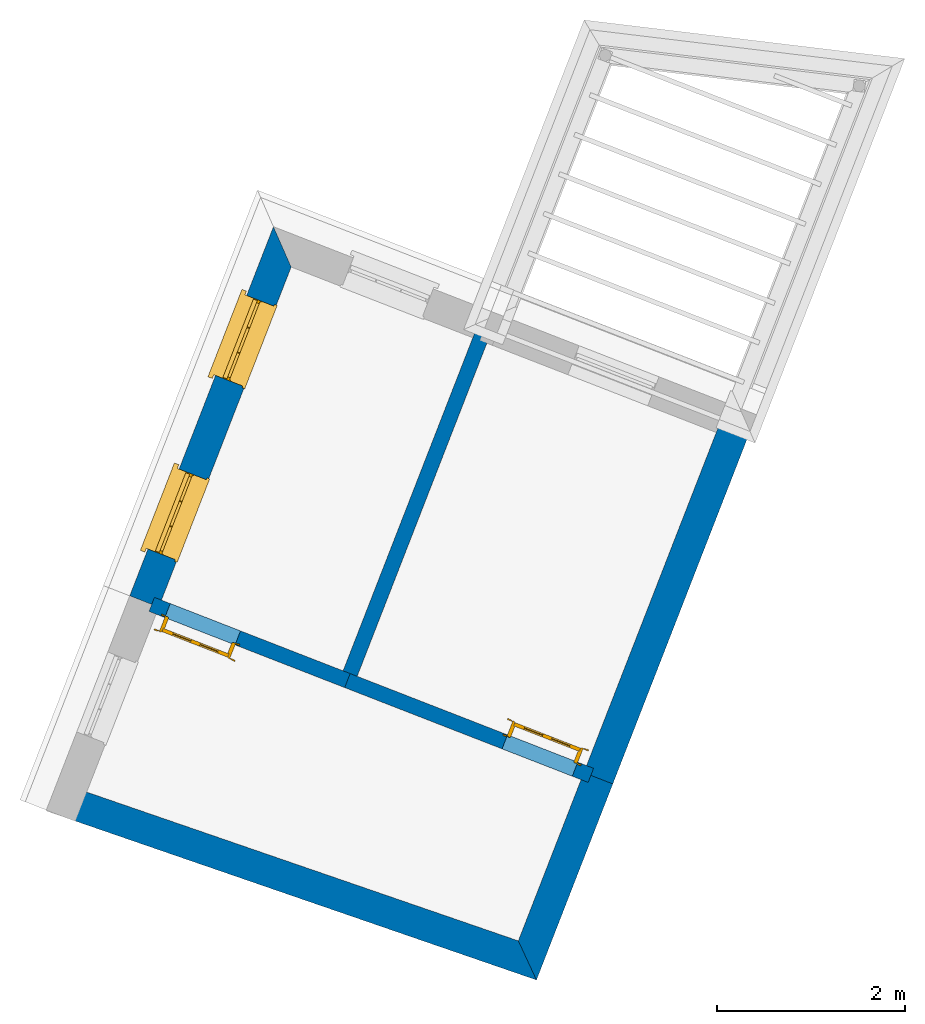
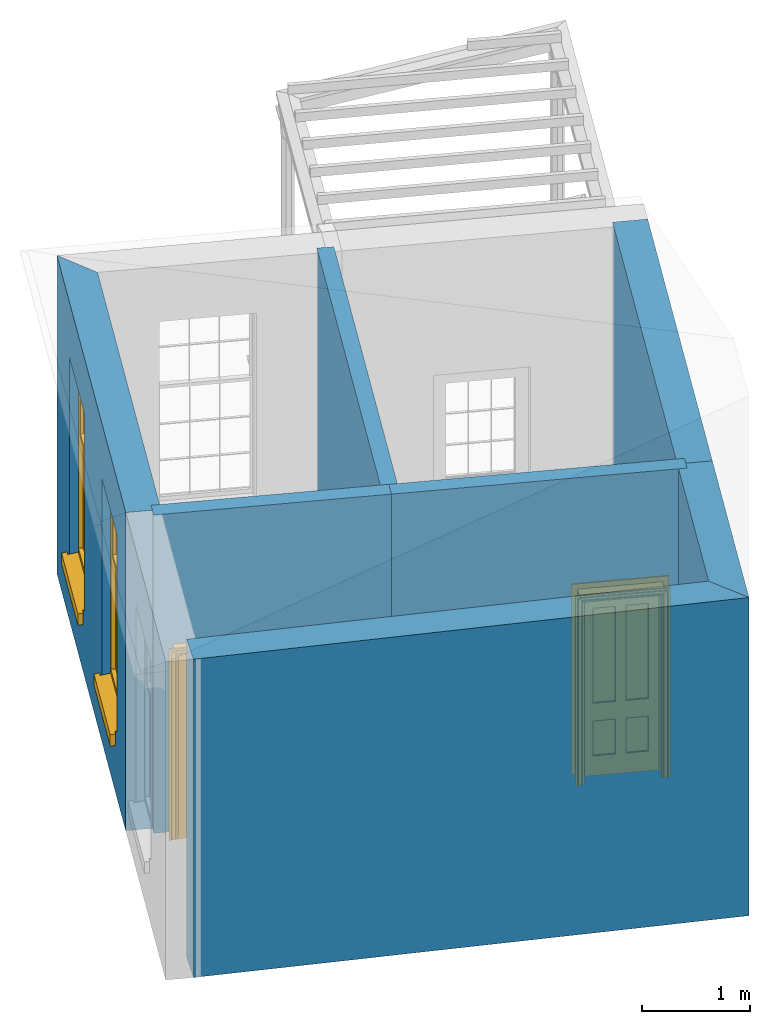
# One storey, part 2 of 4: 7 walls, 2 doors, 2 windows, 4 openings.
"""IFC4 building model written with IfcOpenShell, lengths in metres."""

from ifc_helpers import new_model, si_unit, frame, origin, origin_with_axes, place, context, subcontext, project, spatial, polyline, outline, extrude, faceted_brep, source, transform, mapped, material, layer, layer_set, layer_usage, type_object, type_shapes, element, fill, save


model = new_model("IFC4")

# Units and contexts
model_context = context("Model", 3, world=origin_with_axes())
body_context = subcontext(model_context, "Body", "Model", "MODEL_VIEW")
ifc_project = project(units=[si_unit("PLANEANGLEUNIT", "RADIAN"), si_unit("MASSUNIT", "GRAM", prefix="KILO"), si_unit("FORCEUNIT", "NEWTON", prefix="KILO"), si_unit("LENGTHUNIT", "METRE"), si_unit("AREAUNIT", "SQUARE_METRE"), si_unit("VOLUMEUNIT", "CUBIC_METRE")], contexts=[model_context, model_context])

# Sites, building, storey
site_1_placement = place(None, origin_with_axes())
site_1 = spatial("IfcSite", under=ifc_project, at=site_1_placement, Name="Tamar")
site_2_placement = place(site_1_placement, origin_with_axes())
site_2 = spatial("IfcSite", under=site_1, at=site_2_placement, Name="Site plot-9", CompositionType="ELEMENT")
building_placement = place(None, origin_with_axes())
building = spatial("IfcBuilding", under=site_2, at=building_placement, Name="Building plot-9", CompositionType="ELEMENT")
storey_placement = place(None, frame((0.0, 0.0, 30.1), z_axis=(0.0, 0.0, 1.0), x_axis=(1.0, 0.0, 0.0)))
storey = spatial("IfcBuildingStorey", under=building, at=storey_placement, Name="plot-9 1", CompositionType="ELEMENT", Elevation=30.1)

# Wall, openings, windows
ifc_material_1 = material(Name="Masonry")
ifc_layer_1 = layer(ifc_material_1, 0.33, ventilated=False)
ifc_layer_set_1 = layer_set([ifc_layer_1], Name="exterior_0.08_0.25")
ifc_layer_usage_1 = layer_usage(ifc_layer_set_1, "AXIS2", "POSITIVE", -0.25)
wall_type_1 = type_object("IfcWallType", Name="exterior_0.08_0.25", PredefinedType="SOLIDWALL", material=ifc_layer_set_1)
wall_1_placement = place(storey_placement, frame((225.850272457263, 320.89499479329, 0.0), z_axis=(0.0, 0.0, 1.0), x_axis=(-0.362808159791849, -0.93186385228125, 0.0)))
wall_1 = element("IfcWall", 1, at=wall_1_placement, inside=storey, type_object=wall_type_1, material=ifc_layer_usage_1, Name="exterior", context=body_context, shape_type="SweptSolid", body=[
    extrude(outline(polyline([(0.0799999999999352, 0.079999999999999), (-0.249999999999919, -0.250000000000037), (3.95299551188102, -0.250000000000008), (3.95299551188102, 0.080000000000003), (0.0799999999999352, 0.079999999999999)])), origin_with_axes(), (0.0, 0.0, 1.0), 3.6),
])
opening_1_placement = place(wall_1_placement, frame((0.533248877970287, 0.0, 0.75)))
opening_1 = element("IfcOpeningElement", 2, at=opening_1_placement, cuts=wall_1, Name="My Opening", ObjectType="Opening", context=body_context, shape_type="SweptSolid", body=[
    extrude(outline(polyline([(0.0, -0.269999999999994), (0.909999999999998, -0.270000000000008), (0.909999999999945, 1.09999999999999), (-5.295763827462e-14, 1.1), (0.0, -0.269999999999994)])), origin_with_axes(), (0.0, 0.0, 1.0), 2.23),
])
opening_2_placement = place(wall_1_placement, frame((2.5097466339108, 0.0, 0.75)))
opening_2 = element("IfcOpeningElement", 3, at=opening_2_placement, cuts=wall_1, Name="My Opening", ObjectType="Opening", context=body_context, shape_type="SweptSolid", body=[
    extrude(outline(polyline([(0.0, -0.269999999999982), (0.909999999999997, -0.269999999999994), (0.909999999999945, 1.1), (-5.32907051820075e-14, 1.10000000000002), (0.0, -0.269999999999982)])), origin_with_axes(), (0.0, 0.0, 1.0), 2.23),
])
window_type = type_object("IfcWindowType", Name="sash_big_taller", PartitioningType="DOUBLE_PANEL_HORIZONTAL", PredefinedType="NOTDEFINED")
shared_shape_1 = source(origin(), body_context, "Body", "Brep", [
    faceted_brep([(0.033125, 0.145, 1.385209), (0.01, 0.145, 1.385209), (0.033125, 0.145, 1.786042), (0.876875, 0.145, 1.385209), (0.876875, 0.145, 1.786042), (0.9, 0.145, 1.385209), (0.876875, 0.145, 1.796042), (0.876875, 0.145, 2.196875), (0.9, 0.145, 2.22), (0.033125, 0.145, 2.196875), (0.033125, 0.145, 1.796042), (0.01, 0.145, 2.22), (0.876875, 0.115, 1.786042), (0.876875, 0.115, 1.385209), (0.9, 0.115, 1.347084), (0.033125, 0.115, 2.196875), (0.01, 0.115, 2.22), (0.033125, 0.115, 1.796042), (0.01, 0.115, 1.347084), (0.033125, 0.115, 1.385209), (0.033125, 0.115, 1.786042), (0.876875, 0.115, 2.196875), (0.876875, 0.115, 1.796042), (0.9, 0.115, 2.22), (0.033125, 0.145, 1.347084), (0.01, 0.145, 1.347084), (0.033125, 0.145, 0.94625), (0.876875, 0.145, 1.347084), (0.876875, 0.145, 0.94625), (0.9, 0.145, 1.347084), (0.876875, 0.145, 0.52625), (0.876875, 0.145, 0.125417), (0.9, 0.145, 0.077167), (0.033125, 0.145, 0.125417), (0.033125, 0.145, 0.52625), (0.01, 0.145, 0.077167), (-0.0425, 0.0, 0.01), (-0.0425, -0.05, 0.001667), (0.0, 0.0, 0.01), (0.9525, 0.0, 0.01), (0.91, 0.0, 0.01), (0.9525, -0.05, 0.001667), (-0.02, 0.33, 0.077167), (0.0, 0.33, 0.077167), (-0.02, 0.36, 0.077167), (0.0, 0.19, 0.077167), (0.01, 0.19, 0.077167), (0.91, 0.19, 0.077167), (0.91, 0.33, 0.077167), (0.9, 0.19, 0.077167), (0.93, 0.33, 0.077167), (0.93, 0.36, 0.077167), (0.01, 0.175, 1.385209), (0.9, 0.175, 1.385209), (0.876875, 0.175, 0.125417), (0.876875, 0.175, 0.52625), (0.9, 0.175, 0.077167), (0.876875, 0.175, 0.94625), (0.876875, 0.175, 1.347084), (0.033125, 0.175, 0.125417), (0.01, 0.175, 0.077167), (0.033125, 0.175, 0.52625), (0.033125, 0.175, 1.347084), (0.033125, 0.175, 0.94625), (-0.02, 0.33, 0.052167), (-0.02, 0.36, 0.052167), (0.93, 0.36, 0.052167), (0.93, 0.33, 0.052167), (0.91, 0.33, 0.052167), (0.0, 0.33, 0.052167), (0.91, 0.1, 0.026667), (0.0, 0.1, 0.026667), (-0.0425, -0.05, -0.123333), (0.9525, -0.05, -0.123333), (-0.0425, 0.0, -0.123333), (0.9525, 0.0, -0.123333), (0.01, 0.19, 2.22), (0.9, 0.19, 2.22), (0.0, 0.19, 2.23), (0.91, 0.19, 2.23), (0.01, 0.1, 0.077167), (0.9, 0.1, 0.077167), (0.592292, 0.145, 0.125417), (0.592292, 0.175, 0.125417), (0.317708, 0.175, 0.125417), (0.317708, 0.145, 0.125417), (0.592292, 0.145, 0.53625), (0.317708, 0.145, 0.53625), (0.317708, 0.145, 0.52625), (0.592292, 0.145, 0.52625), (0.592292, 0.175, 0.53625), (0.317708, 0.175, 0.53625), (0.592292, 0.115, 1.796042), (0.592292, 0.145, 1.796042), (0.317708, 0.145, 1.796042), (0.317708, 0.115, 1.796042), (0.317708, 0.115, 1.786042), (0.592292, 0.115, 1.786042), (0.317708, 0.145, 1.786042), (0.592292, 0.145, 1.786042), (0.602292, 0.115, 1.786042), (0.592292, 0.115, 1.385209), (0.602292, 0.115, 1.385209), (0.602292, 0.145, 1.385209), (0.592292, 0.145, 1.385209), (0.602292, 0.145, 1.786042), (0.876875, 0.145, 0.53625), (0.876875, 0.175, 0.53625), (0.602292, 0.175, 0.53625), (0.602292, 0.145, 0.53625), (0.317708, 0.175, 0.52625), (0.307708, 0.175, 0.125417), (0.307708, 0.175, 0.52625), (0.602292, 0.175, 0.52625), (0.602292, 0.175, 0.125417), (0.592292, 0.175, 0.52625), (0.307708, 0.175, 0.53625), (0.033125, 0.175, 0.53625), (0.317708, 0.175, 1.347084), (0.317708, 0.175, 0.94625), (0.307708, 0.175, 0.94625), (0.307708, 0.175, 1.347084), (0.602292, 0.175, 1.347084), (0.602292, 0.175, 0.94625), (0.592292, 0.175, 0.94625), (0.592292, 0.175, 1.347084), (0.307708, 0.145, 0.52625), (0.307708, 0.145, 0.125417), (0.307708, 0.145, 0.53625), (0.033125, 0.145, 0.53625), (0.307708, 0.145, 1.347084), (0.307708, 0.145, 0.94625), (0.592292, 0.145, 1.347084), (0.592292, 0.145, 0.94625), (0.317708, 0.145, 0.94625), (0.317708, 0.145, 1.347084), (0.602292, 0.145, 0.94625), (0.602292, 0.145, 1.347084), (0.602292, 0.145, 0.52625), (0.602292, 0.145, 0.125417), (0.307708, 0.115, 1.796042), (0.307708, 0.115, 1.786042), (0.307708, 0.115, 1.385209), (0.317708, 0.115, 1.385209), (0.317708, 0.115, 2.196875), (0.307708, 0.115, 2.196875), (0.602292, 0.115, 2.196875), (0.592292, 0.115, 2.196875), (0.602292, 0.115, 1.796042), (0.602292, 0.145, 1.796042), (0.307708, 0.145, 1.796042), (0.307708, 0.145, 2.196875), (0.317708, 0.145, 2.196875), (0.592292, 0.145, 2.196875), (0.602292, 0.145, 2.196875), (0.307708, 0.145, 1.786042), (0.317708, 0.145, 1.385209), (0.307708, 0.145, 1.385209), (0.876875, 0.175, 0.93625), (0.033125, 0.175, 0.93625), (0.033125, 0.145, 0.93625), (0.876875, 0.145, 0.93625), (0.91, 0.1, 2.23), (0.9, 0.1, 2.22), (0.01, 0.1, 2.22), (0.0, 0.1, 2.23), (0.91, 0.0, 0.0), (0.0, 0.0, 0.0), (0.91, 0.33, 0.0), (0.0, 0.33, 0.0), (0.317708, 0.145, 0.93625), (0.592292, 0.145, 0.93625), (0.317708, 0.175, 0.93625), (0.307708, 0.175, 0.93625), (0.602292, 0.175, 0.93625), (0.592292, 0.175, 0.93625), (0.307708, 0.145, 0.93625), (0.602292, 0.145, 0.93625)], [[[0, 1, 2]], [[3, 4, 5]], [[6, 7, 8]], [[9, 10, 11]], [[12, 13, 14]], [[15, 16, 17]], [[18, 19, 20]], [[21, 22, 23]], [[24, 25, 26]], [[27, 28, 29]], [[30, 31, 32]], [[33, 34, 35]], [[14, 27, 29]], [[25, 24, 18]], [[36, 37, 38]], [[39, 40, 41]], [[42, 43, 44]], [[45, 46, 43]], [[47, 48, 49]], [[50, 51, 48]], [[1, 0, 52]], [[5, 53, 3]], [[54, 55, 56]], [[57, 58, 53]], [[59, 60, 61]], [[62, 63, 52]], [[48, 43, 46, 49]], [[51, 44, 43, 48]], [[64, 42, 44, 65]], [[65, 44, 51, 66]], [[66, 51, 50, 67]], [[65, 66, 68, 69]], [[60, 56, 49, 46]], [[70, 71, 38, 40]], [[37, 41, 40, 38]], [[37, 72, 73, 41]], [[74, 75, 73, 72]], [[8, 11, 76, 77]], [[76, 78, 79, 77]], [[32, 35, 80, 81]], [[81, 80, 71, 70]], [[82, 83, 84, 85]], [[86, 87, 88, 89]], [[86, 90, 91, 87]], [[92, 93, 94, 95]], [[92, 95, 96, 97]], [[96, 98, 99, 97]], [[100, 97, 101, 102]], [[103, 104, 99, 105]], [[97, 99, 104, 101]], [[102, 103, 105, 100]], [[106, 107, 108, 109]], [[110, 84, 111, 112]], [[113, 114, 83, 115]], [[116, 112, 61, 117]], [[90, 115, 110, 91]], [[118, 119, 120, 121]], [[122, 123, 124, 125]], [[113, 108, 107, 55]], [[126, 112, 111, 127]], [[34, 61, 112, 126]], [[89, 115, 83, 82]], [[88, 110, 115, 89]], [[85, 84, 110, 88]], [[128, 116, 117, 129]], [[130, 121, 120, 131]], [[132, 125, 124, 133]], [[134, 119, 118, 135]], [[136, 123, 122, 137]], [[138, 113, 55, 30]], [[139, 114, 113, 138]], [[138, 30, 106, 109]], [[88, 126, 127, 85]], [[138, 89, 82, 139]], [[137, 132, 133, 136]], [[128, 129, 34, 126]], [[135, 130, 131, 134]], [[140, 17, 20, 141]], [[96, 141, 142, 143]], [[144, 145, 140, 95]], [[146, 147, 92, 148]], [[100, 12, 22, 148]], [[149, 6, 4, 105]], [[94, 150, 151, 152]], [[149, 93, 153, 154]], [[99, 98, 94, 93]], [[155, 2, 10, 150]], [[156, 157, 155, 98]], [[141, 155, 157, 142]], [[20, 2, 155, 141]], [[143, 156, 98, 96]], [[140, 150, 10, 17]], [[145, 151, 150, 140]], [[147, 153, 93, 92]], [[95, 94, 152, 144]], [[22, 6, 149, 148]], [[148, 149, 154, 146]], [[100, 105, 4, 12]], [[109, 86, 89, 138]], [[108, 113, 115, 90]], [[91, 110, 112, 116]], [[87, 128, 126, 88]], [[97, 100, 148, 92]], [[141, 96, 95, 140]], [[98, 155, 150, 94]], [[105, 99, 93, 149]], [[143, 101, 104, 156]], [[135, 118, 125, 132]], [[144, 152, 153, 147]], [[127, 111, 59, 33]], [[15, 9, 151, 145]], [[146, 154, 7, 21]], [[31, 54, 114, 139]], [[36, 74, 72, 37]], [[39, 41, 73, 75]], [[18, 14, 101, 143]], [[23, 16, 144, 147]], [[83, 56, 60, 84]], [[52, 53, 125, 118]], [[53, 52, 156, 104]], [[11, 8, 153, 152]], [[14, 18, 135, 132]], [[2, 1, 11, 10]], [[8, 5, 4, 6]], [[57, 53, 56, 158]], [[60, 52, 63, 159]], [[26, 25, 35, 160]], [[32, 29, 28, 161]], [[14, 23, 22, 12]], [[18, 20, 17, 16]], [[19, 0, 2, 20]], [[17, 10, 9, 15]], [[12, 4, 3, 13]], [[21, 7, 6, 22]], [[27, 58, 57, 28]], [[30, 55, 54, 31]], [[33, 59, 61, 34]], [[26, 63, 62, 24]], [[5, 8, 77, 53]], [[76, 11, 1, 52]], [[46, 45, 78, 76]], [[49, 77, 79, 47]], [[70, 162, 163, 81]], [[71, 80, 164, 165]], [[19, 142, 157, 0]], [[102, 13, 3, 103]], [[121, 130, 24, 62]], [[29, 32, 81, 14]], [[80, 35, 25, 18]], [[60, 46, 76, 52]], [[77, 49, 56, 53]], [[23, 14, 81, 163]], [[16, 164, 80, 18]], [[35, 85, 127]], [[127, 33, 35]], [[139, 82, 32]], [[32, 31, 139]], [[32, 82, 85, 35]], [[102, 101, 14]], [[14, 13, 102]], [[18, 143, 142]], [[142, 19, 18]], [[146, 21, 23]], [[23, 147, 146]], [[16, 15, 145]], [[145, 144, 16]], [[11, 152, 151]], [[151, 9, 11]], [[154, 153, 8]], [[8, 7, 154]], [[23, 163, 164, 16]], [[162, 165, 164, 163]], [[52, 118, 121]], [[121, 62, 52]], [[125, 53, 122]], [[58, 122, 53]], [[27, 137, 122, 58]], [[56, 83, 114]], [[114, 54, 56]], [[111, 84, 60]], [[60, 59, 111]], [[137, 27, 14]], [[14, 132, 137]], [[130, 135, 18]], [[18, 24, 130]], [[157, 156, 52]], [[52, 0, 157]], [[103, 3, 53]], [[53, 104, 103]], [[79, 78, 165, 162]], [[78, 45, 71, 165]], [[162, 70, 47, 79]], [[166, 75, 74, 167]], [[68, 66, 67]], [[48, 68, 67, 50]], [[69, 64, 65]], [[42, 64, 69, 43]], [[69, 68, 168, 169]], [[70, 68, 48, 47]], [[166, 168, 68, 70]], [[43, 69, 71, 45]], [[69, 169, 167, 71]], [[168, 166, 167, 169]], [[38, 167, 74, 36]], [[71, 167, 38]], [[39, 75, 166, 40]], [[40, 166, 70]], [[133, 134, 170, 171]], [[133, 124, 119, 134]], [[28, 57, 123, 136]], [[172, 91, 116, 173]], [[174, 108, 90, 175]], [[120, 173, 159, 63]], [[124, 175, 172, 119]], [[174, 123, 57, 158]], [[176, 173, 116, 128]], [[160, 159, 173, 176]], [[171, 175, 90, 86]], [[170, 172, 175, 171]], [[87, 91, 172, 170]], [[131, 120, 63, 26]], [[177, 174, 158, 161]], [[109, 108, 174, 177]], [[177, 161, 28, 136]], [[170, 176, 128, 87]], [[177, 171, 86, 109]], [[131, 26, 160, 176]], [[136, 133, 171, 177]], [[123, 174, 175, 124]], [[119, 172, 173, 120]], [[134, 131, 176, 170]], [[129, 117, 159, 160]], [[161, 158, 107, 106]], [[35, 34, 129]], [[35, 129, 160]], [[32, 106, 30]], [[32, 161, 106]], [[56, 55, 107]], [[56, 107, 158]], [[60, 117, 61]], [[60, 159, 117]]]),
])
type_shapes(window_type, [shared_shape_1])
window_1_placement = place(storey_placement, frame((225.40520217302, 320.496037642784, 0.75), z_axis=(0.0, 0.0, 1.0), x_axis=(-0.330155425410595, -0.84799610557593, 0.0)))
window_1 = element("IfcWindow", 4, at=window_1_placement, inside=storey, type_object=window_type, Name="toilet outside window", OverallHeight=2.23, OverallWidth=0.91, context=body_context, shape_type="MappedRepresentation", body=[
    mapped(shared_shape_1, transform((0.0, 0.0, 0.0), scale=1.0)),
])
fill(opening_1, window_1)
window_2_placement = place(storey_placement, frame((224.688112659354, 318.654210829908, 0.75), z_axis=(0.0, 0.0, 1.0), x_axis=(-0.330155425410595, -0.84799610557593, 0.0)))
window_2 = element("IfcWindow", 5, at=window_2_placement, inside=storey, type_object=window_type, Name="toilet outside window", OverallHeight=2.23, OverallWidth=0.91, context=body_context, shape_type="MappedRepresentation", body=[
    mapped(shared_shape_1, transform((0.0, 0.0, 0.0), scale=1.0)),
])
fill(opening_2, window_2)

# Walls
ifc_material_2 = material(Name="Masonry")
ifc_layer_2 = layer(ifc_material_2, 0.33, ventilated=False)
ifc_layer_set_2 = layer_set([ifc_layer_2], Name="party_0.08_0.25")
ifc_layer_usage_2 = layer_usage(ifc_layer_set_2, "AXIS2", "POSITIVE", -0.25)
wall_type_2 = type_object("IfcWallType", Name="party_0.08_0.25", PredefinedType="SOLIDWALL", material=ifc_layer_set_2)
wall_2_placement = place(storey_placement, frame((223.621913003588, 315.171508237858, 0.0), z_axis=(0.0, 0.0, 1.0), x_axis=(0.945414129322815, -0.325871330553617, 0.0)))
element("IfcWall", 6, at=wall_2_placement, inside=storey, type_object=wall_type_2, material=ifc_layer_usage_2, Name="party", context=body_context, shape_type="SweptSolid", body=[
    extrude(outline(polyline([(-7.42027300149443e-15, 0.0799999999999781), (1.50531088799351e-14, -0.250000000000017), (5.24422480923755, -0.25000000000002), (4.92696021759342, 0.0799999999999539), (-7.42027300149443e-15, 0.0799999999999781)])), origin_with_axes(), (0.0, 0.0, 1.0), 3.6),
])
wall_3_placement = place(storey_placement, frame((228.352645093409, 313.540889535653, 0.0), z_axis=(0.0, 0.0, 1.0), x_axis=(0.36280815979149, 0.93186385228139, 0.0)))
element("IfcWall", 7, at=wall_3_placement, inside=storey, type_object=wall_type_2, material=ifc_layer_usage_2, Name="party", context=body_context, shape_type="SweptSolid", body=[
    extrude(outline(polyline([(0.07691262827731, 0.0800000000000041), (-0.240351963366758, -0.250000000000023), (1.99214813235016, -0.249999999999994), (1.99214813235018, 0.080000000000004), (0.07691262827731, 0.0800000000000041)])), origin_with_axes(), (0.0, 0.0, 1.0), 3.6),
])
wall_4_placement = place(storey_placement, frame((229.075412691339, 315.39730036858, 0.0), z_axis=(0.0, 0.0, 1.0), x_axis=(0.362808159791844, 0.931863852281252, 0.0)))
element("IfcWall", 8, at=wall_4_placement, inside=storey, type_object=wall_type_2, material=ifc_layer_usage_2, Name="party", context=body_context, shape_type="SweptSolid", body=[
    extrude(outline(polyline([(-1.53250609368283e-14, 0.0800000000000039), (9.42732428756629e-14, -0.249999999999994), (3.95299551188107, -0.250000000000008), (3.95299551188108, 0.0800000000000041), (-1.53250609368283e-14, 0.0800000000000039)])), origin_with_axes(), (0.0, 0.0, 1.0), 3.6),
])

# Wall, opening, door
ifc_material_3 = material(Name="Masonry")
ifc_layer_3 = layer(ifc_material_3, 0.16, ventilated=False)
ifc_layer_set_3 = layer_set([ifc_layer_3], Name="interior_0.08_0.08")
ifc_layer_usage_3 = layer_usage(ifc_layer_set_3, "AXIS2", "POSITIVE", -0.08)
wall_type_3 = type_object("IfcWallType", Name="interior_0.08_0.08", PredefinedType="SOLIDWALL", material=ifc_layer_set_3)
wall_5_placement = place(storey_placement, frame((226.492525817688, 316.402911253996, 0.0), z_axis=(0.0, 0.0, 1.0), x_axis=(0.931863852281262, -0.36280815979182, 0.0)))
wall_5 = element("IfcWall", 9, at=wall_5_placement, inside=storey, type_object=wall_type_3, material=ifc_layer_usage_3, Name="interior", context=body_context, shape_type="SweptSolid", body=[
    extrude(outline(polyline([(-1.32467234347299e-14, 0.0800000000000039), (1.32724533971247e-14, -0.0800000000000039), (2.77174274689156, -0.0800000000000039), (2.77174274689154, 0.0800000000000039), (-1.32467234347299e-14, 0.0800000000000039)])), origin_with_axes(), (0.0, 0.0, 1.0), 3.6),
])
opening_3_placement = place(wall_5_placement, frame((1.79174274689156, 0.0, 0.0199999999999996)))
opening_3 = element("IfcOpeningElement", 10, at=opening_3_placement, cuts=wall_5, Name="My Opening", ObjectType="Opening", context=body_context, shape_type="SweptSolid", body=[
    extrude(outline(polyline([(0.0, -0.100000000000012), (0.800000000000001, -0.100000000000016), (0.800000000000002, 1.1), (1.77635683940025e-15, 1.1), (0.0, -0.100000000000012)])), origin_with_axes(), (0.0, 0.0, 1.0), 2.1),
])
door_type = type_object("IfcDoorType", Name="door_inside", OperationType="SINGLE_SWING_LEFT", PredefinedType="NOTDEFINED")
shared_shape_2 = source(origin(), body_context, "Body", "Brep", [
    faceted_brep([(0.773, 0.33, 1.895), (0.66, 0.33, 1.895), (0.66, 0.33, 2.073), (0.773, 0.33, 2.073), (0.773, 0.33, 0.82), (0.66, 0.33, 0.82), (0.45, 0.33, 1.895), (0.45, 0.33, 2.073), (0.773, 0.33, 0.62), (0.66, 0.33, 0.62), (0.66, 0.315, 0.82), (0.66, 0.315, 1.895), (0.45, 0.315, 1.895), (0.35, 0.33, 1.895), (0.35, 0.33, 2.073), (0.773, 0.33, 0.225), (0.66, 0.33, 0.225), (0.45, 0.33, 0.62), (0.45, 0.33, 0.82), (0.45, 0.315, 0.82), (0.35, 0.33, 0.82), (0.14, 0.33, 2.073), (0.14, 0.33, 1.895), (0.773, 0.33, 0.0), (0.66, 0.33, 0.0), (0.66, 0.315, 0.225), (0.66, 0.315, 0.62), (0.45, 0.315, 0.62), (0.35, 0.33, 0.62), (0.35, 0.315, 0.82), (0.35, 0.315, 1.895), (0.14, 0.315, 1.895), (0.027, 0.33, 2.073), (0.027, 0.33, 1.895), (0.773, 0.292, 0.0), (0.66, 0.292, 0.0), (0.45, 0.33, 0.0), (0.45, 0.33, 0.225), (0.45, 0.315, 0.225), (0.35, 0.33, 0.225), (0.14, 0.33, 0.82), (0.14, 0.33, 0.62), (0.14, 0.315, 0.82), (0.027, 0.33, 0.82), (0.773, 0.292, 0.225), (0.66, 0.292, 0.225), (0.45, 0.292, 0.0), (0.35, 0.33, 0.0), (0.35, 0.315, 0.225), (0.35, 0.315, 0.62), (0.14, 0.315, 0.62), (0.027, 0.33, 0.62), (0.773, 0.292, 0.62), (0.66, 0.292, 0.62), (0.45, 0.292, 0.225), (0.35, 0.292, 0.0), (0.14, 0.33, 0.225), (0.14, 0.33, 0.0), (0.14, 0.315, 0.225), (0.027, 0.33, 0.225), (0.773, 0.292, 0.82), (0.66, 0.292, 0.82), (0.66, 0.307, 0.62), (0.66, 0.307, 0.225), (0.45, 0.307, 0.225), (0.35, 0.292, 0.225), (0.14, 0.292, 0.0), (0.027, 0.33, 0.0), (0.773, 0.292, 1.895), (0.66, 0.292, 1.895), (0.45, 0.292, 0.62), (0.45, 0.292, 0.82), (0.45, 0.307, 0.62), (0.35, 0.292, 0.62), (0.14, 0.292, 0.225), (0.027, 0.292, 0.0), (0.773, 0.292, 2.073), (0.66, 0.292, 2.073), (0.66, 0.307, 1.895), (0.66, 0.307, 0.82), (0.45, 0.307, 0.82), (0.35, 0.292, 0.82), (0.35, 0.307, 0.62), (0.35, 0.307, 0.225), (0.14, 0.307, 0.225), (0.027, 0.292, 0.225), (0.45, 0.292, 1.895), (0.45, 0.292, 2.073), (0.45, 0.307, 1.895), (0.35, 0.292, 1.895), (0.14, 0.292, 0.82), (0.14, 0.292, 0.62), (0.14, 0.307, 0.62), (0.027, 0.292, 0.62), (0.35, 0.292, 2.073), (0.35, 0.307, 1.895), (0.35, 0.307, 0.82), (0.14, 0.307, 0.82), (0.027, 0.292, 0.82), (0.14, 0.292, 2.073), (0.14, 0.292, 1.895), (0.14, 0.307, 1.895), (0.027, 0.292, 1.895), (0.027, 0.292, 2.073), (0.02, 0.335, 0.0), (0.005, 0.34, 0.0), (0.005, 0.34, 2.095), (0.02, 0.335, 2.08), (0.02, 0.33, 0.0), (0.0, 0.335, 0.0), (0.0, 0.335, 2.1), (0.795, 0.34, 2.095), (0.78, 0.335, 2.08), (0.02, 0.33, 2.08), (0.0, 0.33, 0.0), (-0.032, 0.345, 0.0), (-0.032, 0.345, 2.132), (0.8, 0.335, 2.1), (0.795, 0.34, 0.0), (0.78, 0.335, 0.0), (0.78, 0.33, 2.08), (0.04, 0.29, 0.0), (0.025, 0.29, 0.0), (0.025, 0.29, 2.075), (0.04, 0.29, 2.06), (-0.04, 0.34, 0.0), (-0.04, 0.34, 2.14), (0.832, 0.345, 2.132), (0.8, 0.335, 0.0), (0.78, 0.33, 0.0), (0.8, 0.33, 0.0), (0.86, 0.33, 0.0), (0.86, 0.33, 2.16), (0.8, 0.33, 2.1), (-0.06, 0.33, 2.16), (0.0, 0.33, 2.1), (-0.06, 0.33, 0.0), (-0.04, 0.345, 0.0), (-0.04, 0.345, 2.14), (0.84, 0.34, 2.14), (0.832, 0.345, 0.0), (0.84, 0.34, 0.0), (0.86, 0.345, 0.0), (0.86, 0.345, 2.16), (-0.06, 0.345, 2.16), (-0.06, 0.345, 0.0), (0.84, 0.345, 0.0), (0.84, 0.345, 2.14), (-0.025, 0.155, 0.0), (-0.025, 0.16, 0.0), (-0.025, 0.16, 2.125), (-0.025, 0.155, 2.125), (-0.017, 0.155, 0.0), (-0.017, 0.155, 2.117), (0.825, 0.16, 2.125), (0.825, 0.155, 2.125), (0.825, 0.155, 0.0), (0.845, 0.155, 0.0), (-0.045, 0.155, 2.145), (-0.045, 0.155, 0.0), (0.845, 0.155, 2.145), (0.015, 0.165, 0.0), (0.015, 0.165, 2.085), (0.817, 0.155, 2.117), (0.825, 0.16, 0.0), (0.845, 0.17, 0.0), (0.845, 0.17, 2.145), (-0.045, 0.17, 2.145), (-0.045, 0.17, 0.0), (0.02, 0.16, 0.0), (0.02, 0.16, 2.08), (0.785, 0.165, 2.085), (0.817, 0.155, 0.0), (0.8, 0.17, 0.0), (0.8, 0.17, 2.1), (0.0, 0.17, 2.1), (0.0, 0.17, 0.0), (0.035, 0.165, 0.0), (0.035, 0.165, 2.065), (0.78, 0.16, 2.08), (0.785, 0.165, 0.0), (0.775, 0.29, 2.075), (0.76, 0.29, 2.06), (0.035, 0.17, 2.065), (0.035, 0.17, 0.0), (0.765, 0.165, 2.065), (0.78, 0.16, 0.0), (0.765, 0.17, 0.0), (0.765, 0.17, 2.065), (0.765, 0.165, 0.0), (0.04, 0.17, 2.06), (0.04, 0.17, 0.0), (0.76, 0.17, 2.06), (0.76, 0.17, 0.0), (0.76, 0.29, 0.0), (0.775, 0.29, 0.0), (0.025, 0.33, 0.0), (0.025, 0.33, 2.075), (0.775, 0.33, 0.0), (0.775, 0.33, 2.075)], [[[0, 1, 2, 3]], [[1, 0, 4, 5]], [[1, 6, 7, 2]], [[8, 9, 5, 4]], [[1, 5, 10, 11]], [[6, 1, 11, 12]], [[6, 13, 14, 7]], [[15, 16, 9, 8]], [[9, 17, 18, 5]], [[5, 18, 19, 10]], [[10, 19, 12, 11]], [[18, 6, 12, 19]], [[18, 20, 13, 6]], [[21, 14, 13, 22]], [[23, 24, 16, 15]], [[9, 16, 25, 26]], [[17, 9, 26, 27]], [[17, 28, 20, 18]], [[13, 20, 29, 30]], [[22, 13, 30, 31]], [[32, 21, 22, 33]], [[34, 35, 24, 23]], [[24, 36, 37, 16]], [[16, 37, 38, 25]], [[25, 38, 27, 26]], [[37, 17, 27, 38]], [[37, 39, 28, 17]], [[40, 20, 28, 41]], [[20, 40, 42, 29]], [[31, 30, 29, 42]], [[40, 22, 31, 42]], [[33, 22, 40, 43]], [[35, 34, 44, 45]], [[35, 46, 36, 24]], [[36, 47, 39, 37]], [[28, 39, 48, 49]], [[41, 28, 49, 50]], [[43, 40, 41, 51]], [[45, 44, 52, 53]], [[46, 35, 45, 54]], [[46, 55, 47, 36]], [[56, 39, 47, 57]], [[39, 56, 58, 48]], [[50, 49, 48, 58]], [[56, 41, 50, 58]], [[51, 41, 56, 59]], [[53, 52, 60, 61]], [[45, 53, 62, 63]], [[54, 45, 63, 64]], [[55, 46, 54, 65]], [[55, 66, 57, 47]], [[59, 56, 57, 67]], [[61, 60, 68, 69]], [[70, 53, 61, 71]], [[53, 70, 72, 62]], [[72, 64, 63, 62]], [[70, 54, 64, 72]], [[65, 54, 70, 73]], [[65, 74, 66, 55]], [[67, 57, 66, 75]], [[69, 68, 76, 77]], [[61, 69, 78, 79]], [[71, 61, 79, 80]], [[73, 70, 71, 81]], [[65, 73, 82, 83]], [[74, 65, 83, 84]], [[74, 85, 75, 66]], [[86, 69, 77, 87]], [[69, 86, 88, 78]], [[88, 80, 79, 78]], [[86, 71, 80, 88]], [[81, 71, 86, 89]], [[73, 81, 90, 91]], [[73, 91, 92, 82]], [[83, 82, 92, 84]], [[91, 74, 84, 92]], [[91, 93, 85, 74]], [[89, 86, 87, 94]], [[81, 89, 95, 96]], [[90, 81, 96, 97]], [[90, 98, 93, 91]], [[94, 99, 100, 89]], [[89, 100, 101, 95]], [[101, 97, 96, 95]], [[100, 90, 97, 101]], [[100, 102, 98, 90]], [[99, 103, 102, 100]], [[32, 103, 99, 21]], [[102, 103, 32, 33]], [[98, 102, 33, 43]], [[21, 99, 94, 14]], [[94, 87, 7, 14]], [[7, 87, 77, 2]], [[76, 3, 2, 77]], [[43, 51, 93, 98]], [[51, 59, 85, 93]], [[67, 75, 85, 59]], [[34, 23, 15, 44]], [[44, 15, 8, 52]], [[52, 8, 4, 60]], [[0, 68, 60, 4]], [[0, 3, 76, 68]], [[104, 105, 106, 107]], [[104, 108, 109, 105]], [[105, 109, 110, 106]], [[107, 106, 111, 112]], [[107, 113, 108, 104]], [[114, 109, 108]], [[109, 115, 116, 110]], [[106, 110, 117, 111]], [[112, 111, 118, 119]], [[113, 107, 112, 120]], [[121, 122, 123, 124]], [[115, 109, 114, 125]], [[115, 125, 126, 116]], [[110, 116, 127, 117]], [[111, 117, 128, 118]], [[118, 128, 129, 119]], [[120, 112, 119, 129]], [[130, 129, 128]], [[130, 131, 132, 133]], [[133, 132, 134, 135]], [[135, 134, 136, 114]], [[136, 125, 114]], [[125, 137, 138, 126]], [[116, 126, 139, 127]], [[117, 127, 140, 128]], [[141, 130, 128, 140]], [[131, 130, 141]], [[131, 142, 143, 132]], [[132, 143, 144, 134]], [[134, 144, 145, 136]], [[137, 125, 136, 145]], [[143, 142, 146]], [[143, 146, 147]], [[137, 145, 144]], [[143, 147, 138]], [[138, 137, 144]], [[143, 138, 144]], [[126, 138, 147, 139]], [[127, 139, 141, 140]], [[142, 131, 141, 146]], [[139, 147, 146, 141]], [[148, 149, 150, 151]], [[149, 152, 153, 150]], [[151, 150, 154, 155]], [[155, 156, 157]], [[158, 159, 148]], [[158, 148, 151]], [[155, 157, 160]], [[158, 151, 155]], [[155, 160, 158]], [[152, 161, 162, 153]], [[150, 153, 163, 154]], [[155, 154, 164, 156]], [[156, 164, 165, 157]], [[157, 165, 166, 160]], [[160, 166, 167, 158]], [[158, 167, 168, 159]], [[161, 169, 170, 162]], [[153, 162, 171, 163]], [[154, 163, 172, 164]], [[165, 164, 173]], [[165, 173, 174, 166]], [[166, 174, 175, 167]], [[167, 175, 176, 168]], [[169, 177, 178, 170]], [[162, 170, 179, 171]], [[163, 171, 180, 172]], [[172, 180, 173, 164]], [[124, 123, 181, 182]], [[183, 178, 177, 184]], [[170, 178, 185, 179]], [[171, 179, 186, 180]], [[187, 173, 180]], [[185, 188, 187, 189]], [[188, 185, 178, 183]], [[179, 185, 189, 186]], [[189, 187, 180, 186]], [[190, 183, 184, 191]], [[192, 188, 183, 190]], [[191, 184, 122, 121]], [[124, 190, 191, 121]], [[193, 187, 188, 192]], [[182, 192, 190, 124]], [[184, 176, 122]], [[194, 195, 187, 193]], [[192, 182, 194, 193]], [[161, 176, 184]], [[114, 108, 122, 176]], [[173, 187, 195]], [[152, 149, 176, 161]], [[169, 161, 184, 177]], [[196, 122, 108]], [[176, 175, 135, 114]], [[173, 195, 129, 130]], [[176, 149, 168]], [[123, 122, 196, 197]], [[196, 108, 113, 197]], [[175, 174, 133, 135]], [[198, 129, 195]], [[133, 174, 173, 130]], [[159, 168, 149, 148]], [[181, 123, 197, 199]], [[197, 113, 120, 199]], [[199, 120, 129, 198]], [[195, 181, 199, 198]], [[195, 194, 182, 181]]]),
])
type_shapes(door_type, [shared_shape_2])
door_1_placement = place(storey_placement, frame((228.125905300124, 315.659665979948, 0.0199999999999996), z_axis=(0.0, 0.0, 1.0), x_axis=(0.745491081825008, -0.29024652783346, 0.0)))
door_1 = element("IfcDoor", 11, at=door_1_placement, inside=storey, type_object=door_type, Name="bedroom inside door", OverallHeight=2.1, OverallWidth=0.8, context=body_context, shape_type="MappedRepresentation", body=[
    mapped(shared_shape_2, transform((0.0, 0.0, 0.0), scale=1.0)),
])
fill(opening_3, door_1)

# Wall
wall_6_placement = place(storey_placement, frame((226.492525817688, 316.402911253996, 0.0), z_axis=(0.0, 0.0, 1.0), x_axis=(0.362808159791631, 0.931863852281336, 0.0)))
element("IfcWall", 12, at=wall_6_placement, inside=storey, type_object=wall_type_3, material=ifc_layer_usage_3, Name="interior", context=body_context, shape_type="SweptSolid", body=[
    extrude(outline(polyline([(3.02470521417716e-15, 0.0800000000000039), (-3.01490803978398e-15, -0.0800000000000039), (3.95299551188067, -0.0800000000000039), (3.95299551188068, 0.080000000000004), (3.02470521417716e-15, 0.0800000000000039)])), origin_with_axes(), (0.0, 0.0, 1.0), 3.6),
])

# Wall, opening, door
wall_7_placement = place(storey_placement, frame((226.492525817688, 316.402911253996, 0.0), z_axis=(0.0, 0.0, 1.0), x_axis=(-0.931863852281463, 0.362808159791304, 0.0)))
wall_7 = element("IfcWall", 13, at=wall_7_placement, inside=storey, type_object=wall_type_3, material=ifc_layer_usage_3, Name="interior", context=body_context, shape_type="SweptSolid", body=[
    extrude(outline(polyline([(4.58789923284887e-15, 0.0799999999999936), (-4.54257492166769e-15, -0.0799999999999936), (2.22825725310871, -0.0799999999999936), (2.22825725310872, 0.079999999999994), (4.58789923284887e-15, 0.0799999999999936)])), origin_with_axes(), (0.0, 0.0, 1.0), 3.6),
])
opening_4_placement = place(wall_7_placement, frame((1.24825725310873, 0.0, 0.0199999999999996)))
opening_4 = element("IfcOpeningElement", 14, at=opening_4_placement, cuts=wall_7, Name="My Opening", ObjectType="Opening", context=body_context, shape_type="SweptSolid", body=[
    extrude(outline(polyline([(0.0, -0.0999999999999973), (0.799999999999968, -0.0999999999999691), (0.799999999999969, 1.10000000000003), (4.44089209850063e-16, 1.1), (0.0, -0.0999999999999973)])), origin_with_axes(), (0.0, 0.0, 1.0), 2.1),
])
door_2_placement = place(storey_placement, frame((225.365600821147, 316.948975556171, 0.0199999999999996), z_axis=(0.0, 0.0, 1.0), x_axis=(-0.745491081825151, 0.290246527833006, 0.0)))
door_2 = element("IfcDoor", 15, at=door_2_placement, inside=storey, type_object=door_type, Name="toilet inside door", OverallHeight=2.1, OverallWidth=0.8, context=body_context, shape_type="MappedRepresentation", body=[
    mapped(shared_shape_2, transform((0.0, 0.0, 0.0), scale=1.0)),
])
fill(opening_4, door_2)

save(model, "model.ifc")
